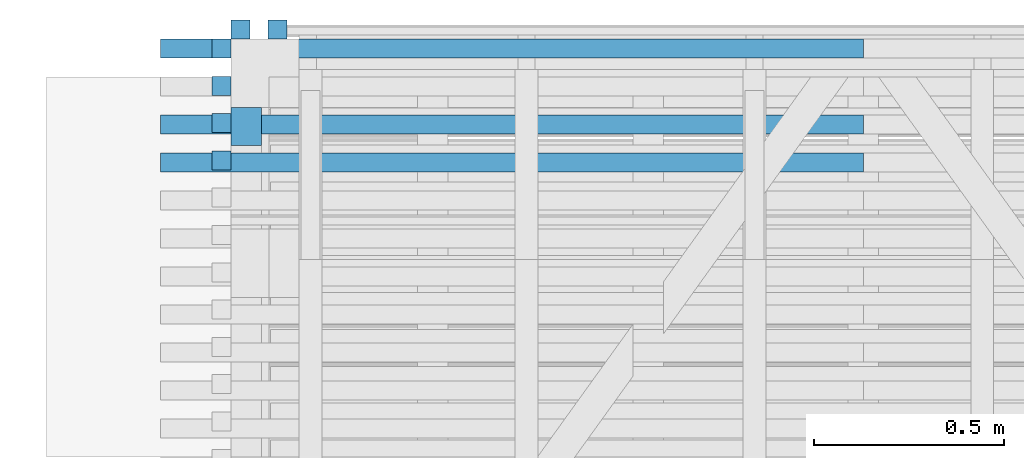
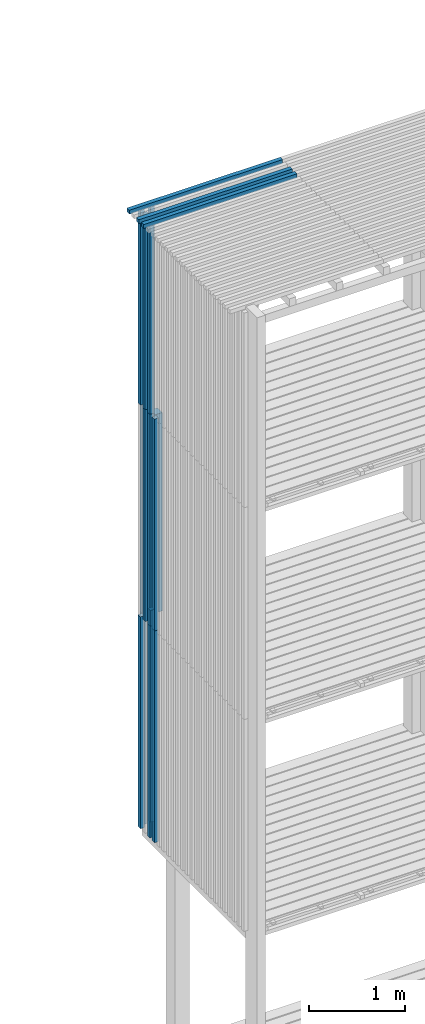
# One storey, part 145 of 182: 18 beams.
"""IFC2X3 building model written with IfcOpenShell, lengths in metres."""

import ifcopenshell
import ifcopenshell.guid

model = None  # the IFC model being written
_history = None  # IfcOwnerHistory: only IFC2X3 demands one
_inside = {}  # id of a spatial element -> (the spatial element, [elements in it])
_under = {}  # id of a project, library or spatial element -> (it, [spatial elements below it])
_declared = {}  # id of a project -> (the project, [libraries it declares])
_typed = {}  # id of a type object -> (the type object, [elements of that type])
_made_of = {}  # id of a material, layer set ... -> (it, [elements and type objects made of it])


def new_model(schema):
    """Start an empty IFC model of exactly this schema.

    Asked for "IFC4X3", IfcOpenShell would pick the latest addendum, in which some entities
    have other attributes; the version numbers below select the first issue.
    IFC2X3 requires an IfcOwnerHistory on every rooted entity: one is made here for all.
    """
    global model, _history
    if schema == "IFC4X3":
        model = ifcopenshell.file(schema_version=(4, 3, 0, 0))
    else:
        model = ifcopenshell.file(schema=schema)
    _inside.clear()
    _under.clear()
    _declared.clear()
    _typed.clear()
    _made_of.clear()
    _history = None
    if model.schema == "IFC2X3":
        org = make("IfcOrganization", Name="unknown")
        user = make(
            "IfcPersonAndOrganization",
            ThePerson=make("IfcPerson", FamilyName="unknown"),
            TheOrganization=org,
        )
        app = make(
            "IfcApplication",
            ApplicationDeveloper=org,
            Version="unknown",
            ApplicationFullName="unknown",
            ApplicationIdentifier="unknown",
        )
        _history = make(
            "IfcOwnerHistory",
            OwningUser=user,
            OwningApplication=app,
            ChangeAction="ADDED",
            CreationDate=0,
        )
    return model


def make(cls, **values):
    """One entity of the class cls with the attributes given. An attribute that is None is left unset."""
    return model.create_entity(
        cls, **{name: value for name, value in values.items() if value is not None}
    )


def rooted(cls, **values):
    """An entity with a GlobalId (a new one), such as an element, a storey or a relation."""
    return make(cls, GlobalId=ifcopenshell.guid.new(), OwnerHistory=_history, **values)


def si_unit(unit_type, name, prefix=None):
    """IfcSIUnit, for example si_unit("LENGTHUNIT", "METRE", prefix="MILLI")."""
    return make("IfcSIUnit", UnitType=unit_type, Prefix=prefix, Name=name)


def assignment(units):
    """IfcUnitAssignment: the units of a project."""
    return None if units is None else make("IfcUnitAssignment", Units=units)


def point(xyz):
    """IfcCartesianPoint."""
    return None if xyz is None else make("IfcCartesianPoint", Coordinates=xyz)


def direction(xyz):
    """IfcDirection."""
    return None if xyz is None else make("IfcDirection", DirectionRatios=xyz)


def frame(location, z_axis=None, x_axis=None):
    """IfcAxis2Placement3D, a coordinate frame: its origin and axes. An axis left out is left unset."""
    return make(
        "IfcAxis2Placement3D",
        Location=point(location),
        Axis=direction(z_axis),
        RefDirection=direction(x_axis),
    )


def origin():
    """The frame at (0, 0, 0) with its axes left unset."""
    return frame((0.0, 0.0, 0.0))


def place(relative_to, where):
    """IfcLocalPlacement: puts the frame where relative to a parent placement (None: the world)."""
    return make(
        "IfcLocalPlacement", PlacementRelTo=relative_to, RelativePlacement=where
    )


def context(
    kind, dimensions, precision=None, world=None, true_north=None, identifier=None
):
    """IfcGeometricRepresentationContext, for example the 3D "Model" context."""
    return make(
        "IfcGeometricRepresentationContext",
        ContextIdentifier=identifier,
        ContextType=kind,
        CoordinateSpaceDimension=dimensions,
        Precision=precision,
        WorldCoordinateSystem=world,
        TrueNorth=true_north,
    )


def project(units=None, contexts=None):
    """IfcProject with its units and contexts."""
    return rooted(
        "IfcProject",
        Name="project",
        RepresentationContexts=contexts,
        UnitsInContext=assignment(units),
    )


def spatial(cls, under=None, at=None, **own):
    """A site, building, storey or space (cls), placed at a placement, below another one or the project."""
    s = rooted(cls, ObjectPlacement=at, **own)
    if under is not None:
        _under.setdefault(under.id(), (under, []))[1].append(s)
    return s


def faces_of(points, faces, orient=None, outer=None):
    """IfcFace entities. A face is a list of loops; a loop is a list of indices into points, from 0.

    orient and outer hold one flag for each loop. By default every Orientation is true, the
    first loop of a face is its IfcFaceOuterBound and the others are IfcFaceBound.
    """
    made = []
    for i, loops in enumerate(faces):
        bounds = []
        for j, loop in enumerate(loops):
            is_outer = j == 0 if outer is None else outer[i][j]
            bounds.append(
                make(
                    "IfcFaceOuterBound" if is_outer else "IfcFaceBound",
                    Bound=make("IfcPolyLoop", Polygon=[points[k] for k in loop]),
                    Orientation=True if orient is None else orient[i][j],
                )
            )
        made.append(make("IfcFace", Bounds=bounds))
    return made


def faceted_brep(points, faces, orient=None, outer=None, voids=None):
    """IfcFacetedBrep: a solid bounded by flat faces; with voids (closed shells), ...WithVoids."""
    shared = [point(p) for p in points]
    hull = make("IfcClosedShell", CfsFaces=faces_of(shared, faces, orient, outer))
    if voids is None:
        return make("IfcFacetedBrep", Outer=hull)
    return make(
        "IfcFacetedBrepWithVoids",
        Outer=hull,
        Voids=[
            make(cls, CfsFaces=faces_of(shared, fs, o, b)) for cls, fs, o, b in voids
        ],
    )


def shape(context_of_items, identifier, shape_type, items):
    """IfcShapeRepresentation: the items that make up one representation, for example the "Body"."""
    return make(
        "IfcShapeRepresentation",
        ContextOfItems=context_of_items,
        RepresentationIdentifier=identifier,
        RepresentationType=shape_type,
        Items=items,
    )


def made_of(thing, what):
    """Note that an element or type object is made of a material, layer set ...; save() writes the relation."""
    if what is not None:
        _made_of.setdefault(what.id(), (what, []))[1].append(thing)
    return thing


def element(
    cls,
    number,
    at=None,
    inside=None,
    cuts=None,
    type_object=None,
    material=None,
    context=None,
    identifier="Body",
    shape_type=None,
    held_by="IfcProductDefinitionShape",
    body=None,
    shapes=None,
    **own,
):
    """One element of the class cls, such as IfcWall. Its Tag is "e" and its number.

    at: its placement. inside: the storey or other place that contains it. cuts: it is an
    opening in that element (IfcRelVoidsElement). A single representation is given by context,
    identifier, shape_type and body (its items); several are given by shapes. held_by: the class
    of the entity that holds the representations. save() writes the other relations.
    """
    e = rooted(cls, Tag="e%d" % number, ObjectPlacement=at, **own)
    if body is not None:
        shapes = [shape(context, identifier, shape_type, body)]
    if shapes is not None:
        e.Representation = make(held_by, Representations=shapes)
    if inside is not None:
        _inside.setdefault(inside.id(), (inside, []))[1].append(e)
    if cuts is not None:
        rooted(
            "IfcRelVoidsElement", RelatingBuildingElement=cuts, RelatedOpeningElement=e
        )
    if type_object is not None:
        _typed.setdefault(type_object.id(), (type_object, []))[1].append(e)
    return made_of(e, material)


def aggregate(whole, parts):
    """IfcRelAggregates: a whole, such as a stair, and the parts it consists of."""
    return rooted("IfcRelAggregates", RelatingObject=whole, RelatedObjects=parts)


def save(model, path):
    """Write the relations noted so far, then the file.

    IfcRelAggregates (storeys below a building ...), IfcRelContainedInSpatialStructure (elements
    in a storey), IfcRelDefinesByType, IfcRelAssociatesMaterial and IfcRelDeclares: one each for
    every whole, place, type object, material and project.
    """
    for whole, parts in _under.values():
        aggregate(whole, parts)
    for where, things in _inside.values():
        rooted(
            "IfcRelContainedInSpatialStructure",
            RelatedElements=things,
            RelatingStructure=where,
        )
    for kind, things in _typed.values():
        rooted("IfcRelDefinesByType", RelatedObjects=things, RelatingType=kind)
    for what, things in _made_of.values():
        rooted("IfcRelAssociatesMaterial", RelatedObjects=things, RelatingMaterial=what)
    for by, libraries in _declared.values():
        rooted("IfcRelDeclares", RelatingContext=by, RelatedDefinitions=libraries)
    model.write(path)


model = new_model("IFC2X3")

# Units and contexts
model_context = context("Model", 3, precision=1e-06, world=origin())
ifc_project = project(units=[si_unit("LENGTHUNIT", "METRE"), si_unit("PLANEANGLEUNIT", "RADIAN")], contexts=[model_context])

# Site, building, storey
site = spatial("IfcSite", under=ifc_project, CompositionType="ELEMENT")
building = spatial("IfcBuilding", under=site, CompositionType="ELEMENT")
storey = spatial("IfcBuildingStorey", under=building, Name="vs", CompositionType="ELEMENT", Elevation=-0.85)

# Beams
placement = place(None, origin())
beam_1_placement = place(placement, frame((33.178181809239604, 12.895077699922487, 2.575000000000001), z_axis=(0.0, -1.0, 0.0), x_axis=(0.0, 0.0, 1.0)))
element("IfcBeam", 1, at=beam_1_placement, inside=storey, Name="Bardage", context=model_context, shape_type="Brep", body=[
    faceted_brep([(0.0, -0.025000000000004, 0.024999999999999), (0.0, 0.024999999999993, 0.025000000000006), (0.0, 0.025000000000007, -0.024999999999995), (0.0, -0.025000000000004, -0.025000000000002), (2.699961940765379, 0.025000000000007, -0.024999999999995), (2.699961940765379, 0.024999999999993, 0.025000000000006), (2.699961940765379, -0.025000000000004, 0.024999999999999), (2.699961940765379, -0.025000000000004, -0.025000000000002), (0.0, -0.025000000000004, -0.025000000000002), (0.0, 0.025000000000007, -0.024999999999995), (2.699961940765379, 0.025000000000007, -0.024999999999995), (2.699961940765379, -0.025000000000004, -0.025000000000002), (2.699961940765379, 0.025000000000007, -0.024999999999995), (0.0, 0.025000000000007, -0.024999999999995), (0.0, 0.024999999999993, 0.025000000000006), (2.699961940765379, 0.024999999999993, 0.025000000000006), (2.699961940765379, 0.024999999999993, 0.025000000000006), (0.0, 0.024999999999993, 0.025000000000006), (0.0, -0.025000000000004, 0.024999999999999), (2.699961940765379, -0.025000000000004, 0.024999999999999), (2.699961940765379, -0.025000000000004, 0.024999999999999), (0.0, -0.025000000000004, 0.024999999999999), (0.0, -0.025000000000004, -0.025000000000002), (2.699961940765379, -0.025000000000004, -0.025000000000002)], [[[0, 1, 2, 3]], [[4, 5, 6, 7]], [[8, 9, 10, 11]], [[12, 13, 14, 15]], [[16, 17, 18, 19]], [[20, 21, 22, 23]]]),
])
beam_2_placement = place(placement, frame((34.719999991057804, 12.545077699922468, 10.47999999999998), z_axis=(0.0, 0.0, 1.0), x_axis=(-1.0, -2e-15, 0.0)))
element("IfcBeam", 2, at=beam_2_placement, inside=storey, Name="Bardage", context=model_context, shape_type="Brep", body=[
    faceted_brep([(1.850000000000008, -0.025000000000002, -0.024999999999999), (1.850000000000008, -0.025000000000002, 0.025000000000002), (-1e-15, -0.025000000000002, 0.025000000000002), (-1e-15, -0.025000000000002, -0.024999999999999), (1.850000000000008, -0.025000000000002, 0.025000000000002), (1.850000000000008, -0.025000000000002, -0.024999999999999), (1.850000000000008, 0.024999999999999, -0.024999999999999), (1.850000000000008, 0.024999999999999, 0.025000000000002), (1.850000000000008, 0.024999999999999, -0.024999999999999), (1.850000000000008, -0.025000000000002, -0.024999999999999), (-1e-15, -0.025000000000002, -0.024999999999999), (0.0, 0.025000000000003, -0.024999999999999), (1.850000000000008, 0.024999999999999, 0.025000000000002), (1.850000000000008, 0.024999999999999, -0.024999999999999), (0.0, 0.025000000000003, -0.024999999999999), (0.0, 0.025000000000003, 0.025000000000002), (-1e-15, -0.025000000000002, 0.025000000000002), (1.850000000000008, -0.025000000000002, 0.025000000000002), (1.850000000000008, 0.024999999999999, 0.025000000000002), (0.0, 0.025000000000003, 0.025000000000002), (-1e-15, -0.025000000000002, -0.024999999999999), (-1e-15, -0.025000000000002, 0.025000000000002), (0.0, 0.025000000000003, 0.025000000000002), (0.0, 0.025000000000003, -0.024999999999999)], [[[0, 1, 2, 3]], [[4, 5, 6, 7]], [[8, 9, 10, 11]], [[12, 13, 14, 15]], [[16, 17, 18, 19]], [[20, 21, 22, 23]]]),
])
beam_3_placement = place(placement, frame((33.178181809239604, 12.895077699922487, 7.974999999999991), z_axis=(0.0, -1.0, 0.0), x_axis=(0.0, 0.0, 1.0)))
element("IfcBeam", 3, at=beam_3_placement, inside=storey, Name="Bardage", context=model_context, shape_type="Brep", body=[
    faceted_brep([(2.479999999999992, -0.025000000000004, 0.024999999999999), (2.479999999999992, -0.025000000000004, -0.024999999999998), (2.479999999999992, 0.025000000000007, -0.024999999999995), (2.479999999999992, 0.024999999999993, 0.025000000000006), (0.0, 0.024999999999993, 0.025000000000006), (0.0, -0.025000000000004, 0.024999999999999), (2.479999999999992, -0.025000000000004, 0.024999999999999), (2.479999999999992, 0.024999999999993, 0.025000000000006), (0.0, -0.025000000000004, 0.024999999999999), (0.0, 0.024999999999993, 0.025000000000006), (0.0, 0.025000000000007, -0.024999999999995), (0.0, -0.025000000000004, -0.025000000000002), (0.0, 0.025000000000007, -0.024999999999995), (0.0, 0.024999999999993, 0.025000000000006), (2.479999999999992, 0.024999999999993, 0.025000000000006), (2.479999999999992, 0.025000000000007, -0.024999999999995), (0.0, -0.025000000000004, -0.025000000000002), (0.0, 0.025000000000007, -0.024999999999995), (2.479999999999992, 0.025000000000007, -0.024999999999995), (2.479999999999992, -0.025000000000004, -0.024999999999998), (2.479999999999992, -0.025000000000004, 0.024999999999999), (0.0, -0.025000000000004, 0.024999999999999), (0.0, -0.025000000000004, -0.025000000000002), (2.479999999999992, -0.025000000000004, -0.024999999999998)], [[[0, 1, 2, 3]], [[4, 5, 6, 7]], [[8, 9, 10, 11]], [[12, 13, 14, 15]], [[16, 17, 18, 19]], [[20, 21, 22, 23]]]),
])
beam_4_placement = place(placement, frame((34.719999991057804, 12.845077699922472, 10.47999999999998), z_axis=(0.0, 0.0, 1.0), x_axis=(-1.0, 0.0, 0.0)))
element("IfcBeam", 4, at=beam_4_placement, inside=storey, Name="Bardage", context=model_context, shape_type="Brep", body=[
    faceted_brep([(1.850000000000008, -0.024999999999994, -0.024999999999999), (1.850000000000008, -0.024999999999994, 0.025000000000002), (-1e-15, -0.024999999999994, 0.025000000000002), (-1e-15, -0.024999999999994, -0.024999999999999), (1.850000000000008, -0.024999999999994, 0.025000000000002), (1.850000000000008, -0.024999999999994, -0.024999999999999), (1.850000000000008, 0.025000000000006, -0.024999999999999), (1.850000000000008, 0.025000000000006, 0.025000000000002), (1.850000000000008, 0.025000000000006, -0.024999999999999), (1.850000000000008, -0.024999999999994, -0.024999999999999), (-1e-15, -0.024999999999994, -0.024999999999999), (-1e-15, 0.025000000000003, -0.024999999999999), (1.850000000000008, 0.025000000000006, 0.025000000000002), (1.850000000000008, 0.025000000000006, -0.024999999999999), (-1e-15, 0.025000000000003, -0.024999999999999), (-1e-15, 0.025000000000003, 0.025000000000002), (-1e-15, -0.024999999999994, 0.025000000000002), (1.850000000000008, -0.024999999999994, 0.025000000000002), (1.850000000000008, 0.025000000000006, 0.025000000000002), (-1e-15, 0.025000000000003, 0.025000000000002), (-1e-15, -0.024999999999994, -0.024999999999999), (-1e-15, -0.024999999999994, 0.025000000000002), (-1e-15, 0.025000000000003, 0.025000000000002), (-1e-15, 0.025000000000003, -0.024999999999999)], [[[0, 1, 2, 3]], [[4, 5, 6, 7]], [[8, 9, 10, 11]], [[12, 13, 14, 15]], [[16, 17, 18, 19]], [[20, 21, 22, 23]]]),
])
beam_5_placement = place(placement, frame((33.029999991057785, 12.746895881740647, 7.974999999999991), z_axis=(1.0, 0.0, 0.0), x_axis=(0.0, 0.0, 1.0)))
element("IfcBeam", 5, at=beam_5_placement, inside=storey, Name="Bardage", context=model_context, shape_type="Brep", body=[
    faceted_brep([(0.0, -0.024999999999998, 0.025000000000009), (0.0, 0.024999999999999, 0.025000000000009), (0.0, 0.024999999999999, -0.025000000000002), (0.0, -0.024999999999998, -0.025000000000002), (2.479999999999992, 0.024999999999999, -0.025000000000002), (2.479999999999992, 0.024999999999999, 0.025000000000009), (2.479999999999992, -0.025000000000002, 0.025000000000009), (2.479999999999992, -0.025000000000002, -0.025000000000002), (0.0, 0.024999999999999, 0.025000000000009), (0.0, -0.024999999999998, 0.025000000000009), (2.479999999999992, -0.025000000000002, 0.025000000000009), (2.479999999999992, 0.024999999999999, 0.025000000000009), (0.0, 0.024999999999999, -0.025000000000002), (0.0, 0.024999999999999, 0.025000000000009), (2.479999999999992, 0.024999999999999, 0.025000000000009), (2.479999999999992, 0.024999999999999, -0.025000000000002), (0.0, -0.024999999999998, -0.025000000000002), (0.0, 0.024999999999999, -0.025000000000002), (2.479999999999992, 0.024999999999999, -0.025000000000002), (2.479999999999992, -0.025000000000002, -0.025000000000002), (2.479999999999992, -0.025000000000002, 0.025000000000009), (0.0, -0.024999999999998, 0.025000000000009), (0.0, -0.024999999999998, -0.025000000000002), (2.479999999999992, -0.025000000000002, -0.025000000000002)], [[[0, 1, 2, 3]], [[4, 5, 6, 7]], [[8, 9, 10, 11]], [[12, 13, 14, 15]], [[16, 17, 18, 19]], [[20, 21, 22, 23]]]),
])
beam_6_placement = place(placement, frame((34.719999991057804, 12.645077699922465, 10.47999999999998), z_axis=(0.0, 0.0, 1.0), x_axis=(-1.0, 0.0, 0.0)))
element("IfcBeam", 6, at=beam_6_placement, inside=storey, Name="Bardage", context=model_context, shape_type="Brep", body=[
    faceted_brep([(1.850000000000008, -0.024999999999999, -0.024999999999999), (1.850000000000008, -0.024999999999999, 0.025000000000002), (-1e-15, -0.025000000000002, 0.025000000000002), (-1e-15, -0.025000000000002, -0.024999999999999), (1.850000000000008, -0.024999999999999, 0.025000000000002), (1.850000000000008, -0.024999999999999, -0.024999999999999), (1.850000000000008, 0.024999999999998, -0.024999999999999), (1.850000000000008, 0.024999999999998, 0.025000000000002), (1.850000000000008, 0.024999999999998, -0.024999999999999), (1.850000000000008, -0.024999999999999, -0.024999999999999), (-1e-15, -0.025000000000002, -0.024999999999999), (-1e-15, 0.024999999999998, -0.024999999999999), (1.850000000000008, 0.024999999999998, 0.025000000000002), (1.850000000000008, 0.024999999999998, -0.024999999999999), (-1e-15, 0.024999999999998, -0.024999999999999), (-1e-15, 0.024999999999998, 0.025000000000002), (-1e-15, -0.025000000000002, 0.025000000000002), (1.850000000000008, -0.024999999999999, 0.025000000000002), (1.850000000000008, 0.024999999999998, 0.025000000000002), (-1e-15, 0.024999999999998, 0.025000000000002), (-1e-15, -0.025000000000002, -0.024999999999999), (-1e-15, -0.025000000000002, 0.025000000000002), (-1e-15, 0.024999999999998, 0.025000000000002), (-1e-15, 0.024999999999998, -0.024999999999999)], [[[0, 1, 2, 3]], [[4, 5, 6, 7]], [[8, 9, 10, 11]], [[12, 13, 14, 15]], [[16, 17, 18, 19]], [[20, 21, 22, 23]]]),
])
beam_7_placement = place(placement, frame((33.178181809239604, 12.895077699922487, 5.274999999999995), z_axis=(0.0, -1.0, 0.0), x_axis=(0.0, 0.0, 1.0)))
element("IfcBeam", 7, at=beam_7_placement, inside=storey, Name="Bardage", context=model_context, shape_type="Brep", body=[
    faceted_brep([(1e-15, -0.025000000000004, 0.024999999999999), (1e-15, 0.024999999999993, 0.025000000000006), (1e-15, 0.025000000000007, -0.024999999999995), (1e-15, -0.025000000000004, -0.025000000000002), (2.699999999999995, -0.025000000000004, -0.025000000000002), (2.699999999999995, 0.025000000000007, -0.024999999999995), (2.699999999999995, 0.024999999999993, 0.025000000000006), (2.699999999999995, -0.025000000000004, 0.024999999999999), (1e-15, -0.025000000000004, 0.024999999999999), (1e-15, -0.025000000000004, -0.025000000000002), (2.699999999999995, -0.025000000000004, -0.025000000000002), (2.699999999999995, -0.025000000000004, 0.024999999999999), (2.699999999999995, -0.025000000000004, -0.025000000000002), (1e-15, -0.025000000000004, -0.025000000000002), (1e-15, 0.025000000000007, -0.024999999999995), (2.699999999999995, 0.025000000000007, -0.024999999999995), (2.699999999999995, 0.025000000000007, -0.024999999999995), (1e-15, 0.025000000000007, -0.024999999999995), (1e-15, 0.024999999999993, 0.025000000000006), (2.699999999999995, 0.024999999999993, 0.025000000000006), (2.699999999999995, 0.024999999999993, 0.025000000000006), (1e-15, 0.024999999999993, 0.025000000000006), (1e-15, -0.025000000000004, 0.024999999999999), (2.699999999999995, -0.025000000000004, 0.024999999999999)], [[[0, 1, 2, 3]], [[4, 5, 6, 7]], [[8, 9, 10, 11]], [[12, 13, 14, 15]], [[16, 17, 18, 19]], [[20, 21, 22, 23]]]),
])
beam_8_placement = place(placement, frame((33.029999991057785, 12.648714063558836, 7.974999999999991), z_axis=(1.0, 0.0, 0.0), x_axis=(0.0, 0.0, 1.0)))
element("IfcBeam", 8, at=beam_8_placement, inside=storey, Name="Bardage", context=model_context, shape_type="Brep", body=[
    faceted_brep([(0.0, -0.024999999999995, 0.025000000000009), (0.0, 0.025000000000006, 0.025000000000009), (0.0, 0.025000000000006, -0.025000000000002), (0.0, -0.024999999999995, -0.025000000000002), (2.479999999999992, 0.025000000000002, -0.025000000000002), (2.479999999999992, 0.025000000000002, 0.025000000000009), (2.479999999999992, -0.024999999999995, 0.025000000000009), (2.479999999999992, -0.024999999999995, -0.025000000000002), (0.0, 0.025000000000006, 0.025000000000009), (0.0, -0.024999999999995, 0.025000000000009), (2.479999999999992, -0.024999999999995, 0.025000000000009), (2.479999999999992, 0.025000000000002, 0.025000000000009), (0.0, 0.025000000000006, -0.025000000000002), (0.0, 0.025000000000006, 0.025000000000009), (2.479999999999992, 0.025000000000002, 0.025000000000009), (2.479999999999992, 0.025000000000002, -0.025000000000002), (0.0, -0.024999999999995, -0.025000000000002), (0.0, 0.025000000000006, -0.025000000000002), (2.479999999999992, 0.025000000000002, -0.025000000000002), (2.479999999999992, -0.024999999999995, -0.025000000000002), (2.479999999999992, -0.024999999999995, 0.025000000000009), (0.0, -0.024999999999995, 0.025000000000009), (0.0, -0.024999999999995, -0.025000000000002), (2.479999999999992, -0.024999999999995, -0.025000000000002)], [[[0, 1, 2, 3]], [[4, 5, 6, 7]], [[8, 9, 10, 11]], [[12, 13, 14, 15]], [[16, 17, 18, 19]], [[20, 21, 22, 23]]]),
])
beam_9_placement = place(placement, frame((33.029999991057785, 12.746895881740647, 5.274999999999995), z_axis=(1.0, 0.0, 0.0), x_axis=(0.0, 0.0, 1.0)))
element("IfcBeam", 9, at=beam_9_placement, inside=storey, Name="Bardage", context=model_context, shape_type="Brep", body=[
    faceted_brep([(2.699999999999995, 0.024999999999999, 0.025000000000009), (2.699999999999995, -0.025000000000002, 0.025000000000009), (2.699999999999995, -0.025000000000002, -0.025000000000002), (2.699999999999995, 0.024999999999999, -0.025000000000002), (1e-15, 0.024999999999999, 0.025000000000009), (2.699999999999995, 0.024999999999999, 0.025000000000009), (2.699999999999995, 0.024999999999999, -0.025000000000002), (1e-15, 0.024999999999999, -0.025000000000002), (1e-15, -0.024999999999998, 0.025000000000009), (1e-15, 0.024999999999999, 0.025000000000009), (1e-15, 0.024999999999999, -0.025000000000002), (1e-15, -0.024999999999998, -0.025000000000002), (1e-15, 0.024999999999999, 0.025000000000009), (1e-15, -0.024999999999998, 0.025000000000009), (2.699999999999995, -0.025000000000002, 0.025000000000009), (2.699999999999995, 0.024999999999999, 0.025000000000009), (1e-15, -0.024999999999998, 0.025000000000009), (1e-15, -0.024999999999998, -0.025000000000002), (2.699999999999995, -0.025000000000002, -0.025000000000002), (2.699999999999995, -0.025000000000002, 0.025000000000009), (1e-15, -0.024999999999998, -0.025000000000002), (1e-15, 0.024999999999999, -0.025000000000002), (2.699999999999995, 0.024999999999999, -0.025000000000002), (2.699999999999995, -0.025000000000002, -0.025000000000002)], [[[0, 1, 2, 3]], [[4, 5, 6, 7]], [[8, 9, 10, 11]], [[12, 13, 14, 15]], [[16, 17, 18, 19]], [[20, 21, 22, 23]]]),
])
beam_10_placement = place(placement, frame((33.029999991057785, 12.648714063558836, 2.575000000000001), z_axis=(1.0, 0.0, 0.0), x_axis=(0.0, 0.0, 1.0)))
element("IfcBeam", 10, at=beam_10_placement, inside=storey, Name="Bardage", context=model_context, shape_type="Brep", body=[
    faceted_brep([(2.699961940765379, -0.024999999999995, 0.025000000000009), (2.699961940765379, -0.024999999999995, -0.025000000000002), (2.699961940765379, 0.025000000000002, -0.025000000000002), (2.699961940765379, 0.025000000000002, 0.025000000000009), (0.0, -0.024999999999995, 0.025000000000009), (2.699961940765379, -0.024999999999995, 0.025000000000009), (2.699961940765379, 0.025000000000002, 0.025000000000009), (0.0, 0.025000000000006, 0.025000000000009), (0.0, -0.024999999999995, 0.025000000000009), (0.0, 0.025000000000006, 0.025000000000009), (0.0, 0.025000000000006, -0.025000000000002), (0.0, -0.024999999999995, -0.025000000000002), (0.0, -0.024999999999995, 0.025000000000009), (0.0, -0.024999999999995, -0.025000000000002), (2.699961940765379, -0.024999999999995, -0.025000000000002), (2.699961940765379, -0.024999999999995, 0.025000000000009), (0.0, -0.024999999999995, -0.025000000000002), (0.0, 0.025000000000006, -0.025000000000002), (2.699961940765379, 0.025000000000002, -0.025000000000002), (2.699961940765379, -0.024999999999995, -0.025000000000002), (0.0, 0.025000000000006, -0.025000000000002), (0.0, 0.025000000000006, 0.025000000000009), (2.699961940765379, 0.025000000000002, 0.025000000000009), (2.699961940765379, 0.025000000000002, -0.025000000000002)], [[[0, 1, 2, 3]], [[4, 5, 6, 7]], [[8, 9, 10, 11]], [[12, 13, 14, 15]], [[16, 17, 18, 19]], [[20, 21, 22, 23]]]),
])
beam_11_placement = place(placement, frame((33.07999999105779, 12.895077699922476, 5.274999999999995), z_axis=(0.0, -1.0, 0.0), x_axis=(0.0, 0.0, 1.0)))
element("IfcBeam", 11, at=beam_11_placement, inside=storey, Name="Bardage", context=model_context, shape_type="Brep", body=[
    faceted_brep([(1e-15, -0.025000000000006, 0.025000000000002), (1e-15, 0.024999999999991, 0.025000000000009), (1e-15, 0.025000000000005, -0.024999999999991), (1e-15, -0.024999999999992, -0.024999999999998), (2.699999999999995, -0.024999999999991, -0.024999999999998), (2.699999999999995, 0.025000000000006, -0.024999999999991), (2.699999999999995, 0.024999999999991, 0.025000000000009), (2.699999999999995, -0.025000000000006, 0.025000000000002), (1e-15, -0.025000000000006, 0.025000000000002), (1e-15, -0.024999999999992, -0.024999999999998), (2.699999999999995, -0.024999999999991, -0.024999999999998), (2.699999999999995, -0.025000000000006, 0.025000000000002), (2.699999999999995, -0.024999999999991, -0.024999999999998), (1e-15, -0.024999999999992, -0.024999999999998), (1e-15, 0.025000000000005, -0.024999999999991), (2.699999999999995, 0.025000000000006, -0.024999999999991), (2.699999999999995, 0.025000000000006, -0.024999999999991), (1e-15, 0.025000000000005, -0.024999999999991), (1e-15, 0.024999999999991, 0.025000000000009), (2.699999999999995, 0.024999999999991, 0.025000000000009), (2.699999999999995, 0.024999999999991, 0.025000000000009), (1e-15, 0.024999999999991, 0.025000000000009), (1e-15, -0.025000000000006, 0.025000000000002), (2.699999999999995, -0.025000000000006, 0.025000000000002)], [[[0, 1, 2, 3]], [[4, 5, 6, 7]], [[8, 9, 10, 11]], [[12, 13, 14, 15]], [[16, 17, 18, 19]], [[20, 21, 22, 23]]]),
])
beam_12_placement = place(placement, frame((33.029999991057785, 12.845077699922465, 2.575000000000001), z_axis=(1.0, 0.0, 0.0), x_axis=(0.0, 3e-15, 1.0)))
element("IfcBeam", 12, at=beam_12_placement, inside=storey, Name="Bardage", context=model_context, shape_type="Brep", body=[
    faceted_brep([(2.699961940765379, -0.024999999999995, 0.025000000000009), (2.699961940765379, -0.024999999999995, -0.025000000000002), (2.699961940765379, 0.02500000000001, -0.025000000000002), (2.699961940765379, 0.02500000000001, 0.025000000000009), (0.0, -0.025000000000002, 0.025000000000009), (2.699961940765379, -0.024999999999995, 0.025000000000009), (2.699961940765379, 0.02500000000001, 0.025000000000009), (0.0, 0.025000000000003, 0.025000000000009), (0.0, -0.025000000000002, 0.025000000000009), (0.0, 0.025000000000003, 0.025000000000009), (0.0, 0.025000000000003, -0.025000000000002), (0.0, -0.025000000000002, -0.025000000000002), (0.0, -0.025000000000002, 0.025000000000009), (0.0, -0.025000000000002, -0.025000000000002), (2.699961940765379, -0.024999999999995, -0.025000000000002), (2.699961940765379, -0.024999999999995, 0.025000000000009), (0.0, -0.025000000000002, -0.025000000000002), (0.0, 0.025000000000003, -0.025000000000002), (2.699961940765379, 0.02500000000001, -0.025000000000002), (2.699961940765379, -0.024999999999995, -0.025000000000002), (0.0, 0.025000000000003, -0.025000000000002), (0.0, 0.025000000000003, 0.025000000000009), (2.699961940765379, 0.02500000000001, 0.025000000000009), (2.699961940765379, 0.02500000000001, -0.025000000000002)], [[[0, 1, 2, 3]], [[4, 5, 6, 7]], [[8, 9, 10, 11]], [[12, 13, 14, 15]], [[16, 17, 18, 19]], [[20, 21, 22, 23]]]),
])
beam_13_placement = place(placement, frame((33.09499999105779, 12.640077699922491, 5.446999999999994), z_axis=(0.0, -1.0, 0.0), x_axis=(0.0, 0.0, 1.0)))
element("IfcBeam", 13, at=beam_13_placement, inside=storey, Name="Support bardage", context=model_context, shape_type="Brep", body=[
    faceted_brep([(2.527999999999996, 0.039999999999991, -0.050000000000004), (2.527999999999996, 0.039999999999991, 0.049999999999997), (2.527999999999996, -0.040000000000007, 0.049999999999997), (2.527999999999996, -0.040000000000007, -0.050000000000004), (-1e-15, 0.039999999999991, -0.050000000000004), (2.527999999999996, 0.039999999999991, -0.050000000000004), (2.527999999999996, -0.040000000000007, -0.050000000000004), (-1e-15, -0.040000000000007, -0.050000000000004), (-1e-15, 0.039999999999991, -0.050000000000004), (-1e-15, -0.040000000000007, -0.050000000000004), (-1e-15, -0.040000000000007, 0.049999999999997), (-1e-15, 0.039999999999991, 0.049999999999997), (-1e-15, 0.039999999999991, -0.050000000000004), (-1e-15, 0.039999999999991, 0.049999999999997), (2.527999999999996, 0.039999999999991, 0.049999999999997), (2.527999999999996, 0.039999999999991, -0.050000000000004), (-1e-15, 0.039999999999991, 0.049999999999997), (-1e-15, -0.040000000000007, 0.049999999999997), (2.527999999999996, -0.040000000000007, 0.049999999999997), (2.527999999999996, 0.039999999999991, 0.049999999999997), (-1e-15, -0.040000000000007, 0.049999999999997), (-1e-15, -0.040000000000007, -0.050000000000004), (2.527999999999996, -0.040000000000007, -0.050000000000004), (2.527999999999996, -0.040000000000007, 0.049999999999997)], [[[0, 1, 2, 3]], [[4, 5, 6, 7]], [[8, 9, 10, 11]], [[12, 13, 14, 15]], [[16, 17, 18, 19]], [[20, 21, 22, 23]]]),
])
beam_14_placement = place(placement, frame((33.029999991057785, 12.550532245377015, 2.575000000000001), z_axis=(1.0, 0.0, 0.0), x_axis=(0.0, 0.0, 1.0)))
element("IfcBeam", 14, at=beam_14_placement, inside=storey, Name="Bardage", context=model_context, shape_type="Brep", body=[
    faceted_brep([(2.699961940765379, -0.025000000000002, 0.025000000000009), (2.699961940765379, -0.025000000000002, -0.025000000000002), (2.699961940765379, 0.025000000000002, -0.025000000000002), (2.699961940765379, 0.025000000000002, 0.025000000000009), (0.0, -0.025000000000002, 0.025000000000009), (2.699961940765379, -0.025000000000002, 0.025000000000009), (2.699961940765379, 0.025000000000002, 0.025000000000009), (0.0, 0.025000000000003, 0.025000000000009), (0.0, -0.025000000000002, 0.025000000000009), (0.0, 0.025000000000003, 0.025000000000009), (0.0, 0.025000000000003, -0.025000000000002), (0.0, -0.025000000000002, -0.025000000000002), (0.0, -0.025000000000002, 0.025000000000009), (0.0, -0.025000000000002, -0.025000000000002), (2.699961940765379, -0.025000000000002, -0.025000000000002), (2.699961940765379, -0.025000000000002, 0.025000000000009), (0.0, -0.025000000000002, -0.025000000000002), (0.0, 0.025000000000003, -0.025000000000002), (2.699961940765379, 0.025000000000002, -0.025000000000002), (2.699961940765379, -0.025000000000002, -0.025000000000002), (0.0, 0.025000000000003, -0.025000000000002), (0.0, 0.025000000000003, 0.025000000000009), (2.699961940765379, 0.025000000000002, 0.025000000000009), (2.699961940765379, 0.025000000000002, -0.025000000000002)], [[[0, 1, 2, 3]], [[4, 5, 6, 7]], [[8, 9, 10, 11]], [[12, 13, 14, 15]], [[16, 17, 18, 19]], [[20, 21, 22, 23]]]),
])
beam_15_placement = place(placement, frame((33.029999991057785, 12.648714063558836, 5.274999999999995), z_axis=(1.0, 0.0, 0.0), x_axis=(0.0, 0.0, 1.0)))
element("IfcBeam", 15, at=beam_15_placement, inside=storey, Name="Bardage", context=model_context, shape_type="Brep", body=[
    faceted_brep([(2.699999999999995, 0.025000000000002, 0.025000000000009), (2.699999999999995, -0.024999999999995, 0.025000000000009), (2.699999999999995, -0.024999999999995, -0.025000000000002), (2.699999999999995, 0.025000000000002, -0.025000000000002), (1e-15, 0.025000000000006, 0.025000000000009), (2.699999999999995, 0.025000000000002, 0.025000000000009), (2.699999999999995, 0.025000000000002, -0.025000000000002), (1e-15, 0.025000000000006, -0.025000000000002), (1e-15, -0.024999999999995, 0.025000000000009), (1e-15, 0.025000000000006, 0.025000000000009), (1e-15, 0.025000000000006, -0.025000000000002), (1e-15, -0.024999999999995, -0.025000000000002), (1e-15, 0.025000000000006, 0.025000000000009), (1e-15, -0.024999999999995, 0.025000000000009), (2.699999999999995, -0.024999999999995, 0.025000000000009), (2.699999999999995, 0.025000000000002, 0.025000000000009), (1e-15, -0.024999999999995, 0.025000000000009), (1e-15, -0.024999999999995, -0.025000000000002), (2.699999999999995, -0.024999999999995, -0.025000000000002), (2.699999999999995, -0.024999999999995, 0.025000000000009), (1e-15, -0.024999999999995, -0.025000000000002), (1e-15, 0.025000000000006, -0.025000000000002), (2.699999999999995, 0.025000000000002, -0.025000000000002), (2.699999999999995, -0.024999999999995, -0.025000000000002)], [[[0, 1, 2, 3]], [[4, 5, 6, 7]], [[8, 9, 10, 11]], [[12, 13, 14, 15]], [[16, 17, 18, 19]], [[20, 21, 22, 23]]]),
])
beam_16_placement = place(placement, frame((33.029999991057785, 12.845077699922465, 7.974999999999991), z_axis=(1.0, 0.0, 0.0), x_axis=(0.0, 3e-15, 1.0)))
element("IfcBeam", 16, at=beam_16_placement, inside=storey, Name="Bardage", context=model_context, shape_type="Brep", body=[
    faceted_brep([(0.0, -0.025000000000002, 0.025000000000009), (-1e-15, 0.025000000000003, 0.025000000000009), (-1e-15, 0.025000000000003, -0.025000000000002), (0.0, -0.025000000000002, -0.025000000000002), (2.479999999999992, 0.02500000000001, -0.025000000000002), (2.479999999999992, 0.02500000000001, 0.025000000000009), (2.479999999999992, -0.024999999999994, 0.025000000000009), (2.479999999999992, -0.024999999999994, -0.025000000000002), (-1e-15, 0.025000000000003, 0.025000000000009), (0.0, -0.025000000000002, 0.025000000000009), (2.479999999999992, -0.024999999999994, 0.025000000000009), (2.479999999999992, 0.02500000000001, 0.025000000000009), (-1e-15, 0.025000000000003, -0.025000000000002), (-1e-15, 0.025000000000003, 0.025000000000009), (2.479999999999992, 0.02500000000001, 0.025000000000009), (2.479999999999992, 0.02500000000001, -0.025000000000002), (0.0, -0.025000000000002, -0.025000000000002), (-1e-15, 0.025000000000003, -0.025000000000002), (2.479999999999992, 0.02500000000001, -0.025000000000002), (2.479999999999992, -0.024999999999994, -0.025000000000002), (2.479999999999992, -0.024999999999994, 0.025000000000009), (0.0, -0.025000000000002, 0.025000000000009), (0.0, -0.025000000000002, -0.025000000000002), (2.479999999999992, -0.024999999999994, -0.025000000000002)], [[[0, 1, 2, 3]], [[4, 5, 6, 7]], [[8, 9, 10, 11]], [[12, 13, 14, 15]], [[16, 17, 18, 19]], [[20, 21, 22, 23]]]),
])
beam_17_placement = place(placement, frame((33.029999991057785, 12.550532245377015, 5.274999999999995), z_axis=(1.0, 0.0, 0.0), x_axis=(0.0, 0.0, 1.0)))
element("IfcBeam", 17, at=beam_17_placement, inside=storey, Name="Bardage", context=model_context, shape_type="Brep", body=[
    faceted_brep([(2.699999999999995, 0.025000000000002, 0.025000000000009), (2.699999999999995, -0.025000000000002, 0.025000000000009), (2.699999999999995, -0.025000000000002, -0.025000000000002), (2.699999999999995, 0.025000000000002, -0.025000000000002), (1e-15, 0.025000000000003, 0.025000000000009), (2.699999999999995, 0.025000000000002, 0.025000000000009), (2.699999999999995, 0.025000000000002, -0.025000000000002), (1e-15, 0.025000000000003, -0.025000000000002), (1e-15, -0.025000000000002, 0.025000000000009), (1e-15, 0.025000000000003, 0.025000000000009), (1e-15, 0.025000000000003, -0.025000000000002), (1e-15, -0.025000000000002, -0.025000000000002), (1e-15, 0.025000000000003, 0.025000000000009), (1e-15, -0.025000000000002, 0.025000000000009), (2.699999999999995, -0.025000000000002, 0.025000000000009), (2.699999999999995, 0.025000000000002, 0.025000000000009), (1e-15, -0.025000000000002, 0.025000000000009), (1e-15, -0.025000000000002, -0.025000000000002), (2.699999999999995, -0.025000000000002, -0.025000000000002), (2.699999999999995, -0.025000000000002, 0.025000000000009), (1e-15, -0.025000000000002, -0.025000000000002), (1e-15, 0.025000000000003, -0.025000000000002), (2.699999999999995, 0.025000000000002, -0.025000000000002), (2.699999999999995, -0.025000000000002, -0.025000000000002)], [[[0, 1, 2, 3]], [[4, 5, 6, 7]], [[8, 9, 10, 11]], [[12, 13, 14, 15]], [[16, 17, 18, 19]], [[20, 21, 22, 23]]]),
])
beam_18_placement = place(placement, frame((33.07999999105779, 12.895077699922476, 2.575000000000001), z_axis=(0.0, -1.0, 0.0), x_axis=(0.0, 0.0, 1.0)))
element("IfcBeam", 18, at=beam_18_placement, inside=storey, Name="Bardage", context=model_context, shape_type="Brep", body=[
    faceted_brep([(0.0, -0.025000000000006, 0.025000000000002), (0.0, 0.024999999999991, 0.025000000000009), (0.0, 0.025000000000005, -0.024999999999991), (0.0, -0.024999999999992, -0.024999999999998), (2.699961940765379, 0.025000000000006, -0.024999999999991), (2.699961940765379, 0.024999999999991, 0.025000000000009), (2.699961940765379, -0.025000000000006, 0.025000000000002), (2.699961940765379, -0.024999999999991, -0.024999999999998), (0.0, -0.024999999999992, -0.024999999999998), (0.0, 0.025000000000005, -0.024999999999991), (2.699961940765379, 0.025000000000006, -0.024999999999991), (2.699961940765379, -0.024999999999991, -0.024999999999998), (2.699961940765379, 0.025000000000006, -0.024999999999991), (0.0, 0.025000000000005, -0.024999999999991), (0.0, 0.024999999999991, 0.025000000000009), (2.699961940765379, 0.024999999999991, 0.025000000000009), (2.699961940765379, 0.024999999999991, 0.025000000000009), (0.0, 0.024999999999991, 0.025000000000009), (0.0, -0.025000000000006, 0.025000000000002), (2.699961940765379, -0.025000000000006, 0.025000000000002), (2.699961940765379, -0.025000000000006, 0.025000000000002), (0.0, -0.025000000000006, 0.025000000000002), (0.0, -0.024999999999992, -0.024999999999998), (2.699961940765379, -0.024999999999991, -0.024999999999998)], [[[0, 1, 2, 3]], [[4, 5, 6, 7]], [[8, 9, 10, 11]], [[12, 13, 14, 15]], [[16, 17, 18, 19]], [[20, 21, 22, 23]]]),
])

save(model, "model.ifc")
